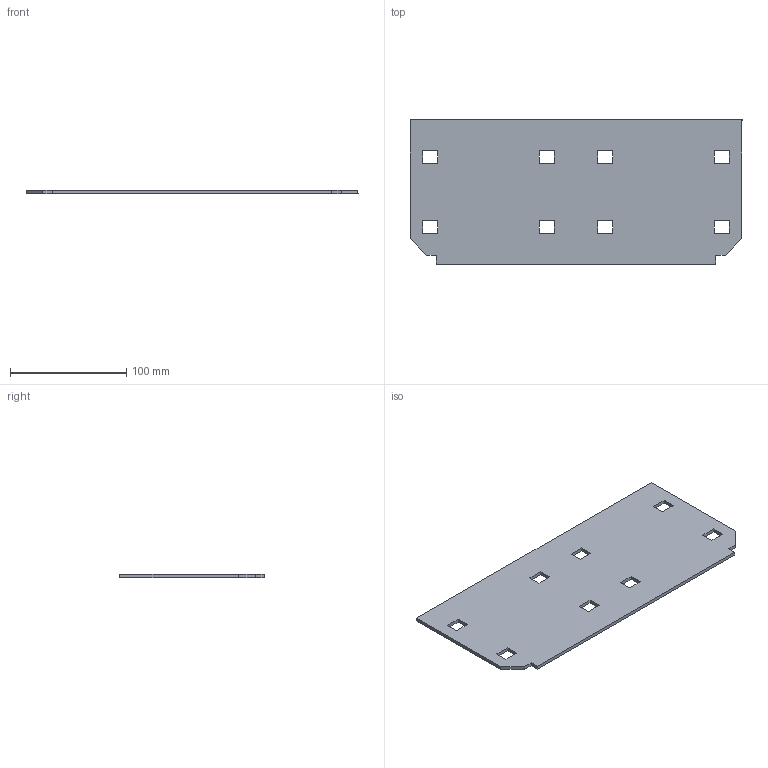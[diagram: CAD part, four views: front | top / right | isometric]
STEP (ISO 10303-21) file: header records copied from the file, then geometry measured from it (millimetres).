
FILE_DESCRIPTION (( 'STEP AP203' ), '1' );
FILE_NAME ('N3 SPLICE PLATE.STEP', '2024-09-04T22:27:30', ( '' ), ( '' ), 'SwSTEP 2.0', 'SolidWorks 2023', '' );
FILE_SCHEMA (( 'CONFIG_CONTROL_DESIGN' ));
Length unit declared in the file: millimetre
Products named in the file (1): N3 SPLICE PLATE
Bounding box: 285 x 124 x 3 mm (x, y, z)
Volume: 100944.7 mm3; surface area: 70851.5 mm2
Topology: 1 solids, 1 shells, 44 faces, 126 edges, 84 vertices
Faces by surface type: plane 44
Entity records: 1519 total; most frequent: CARTESIAN_POINT 255, ORIENTED_EDGE 252, DIRECTION 216, EDGE_CURVE 126, VECTOR 126, LINE 126, VERTEX_POINT 84, EDGE_LOOP 60
